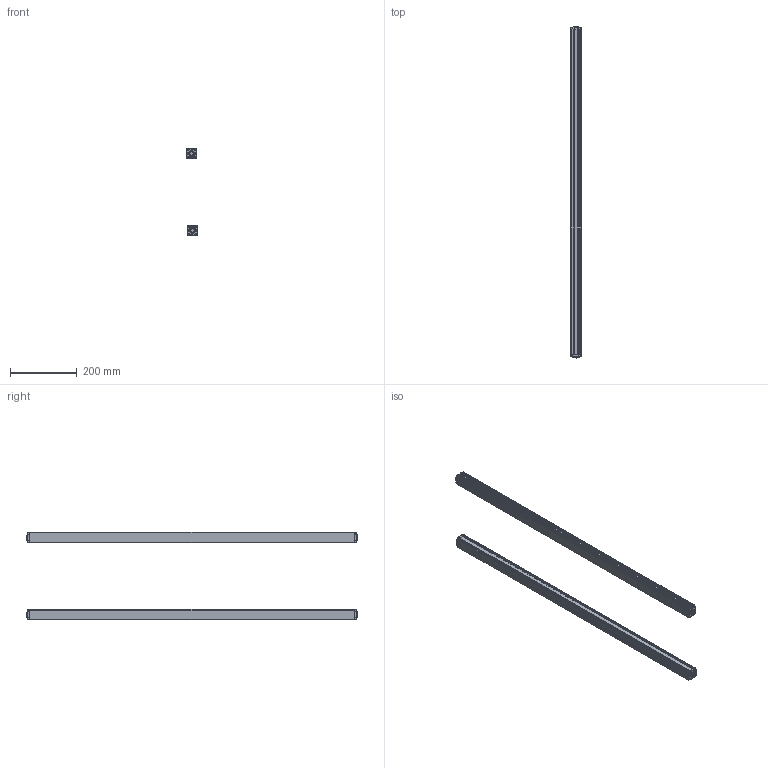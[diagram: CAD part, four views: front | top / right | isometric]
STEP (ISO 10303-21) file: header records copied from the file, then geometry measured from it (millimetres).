
FILE_DESCRIPTION (( 'STEP AP203' ), '1' );
FILE_NAME ('ZDA4820-970.STEP', '2022-12-29T09:44:29', ( 'User' ), ( 'China' ), 'SwSTEP 2.0', 'SolidWorks 2020', '' );
FILE_SCHEMA (( 'CONFIG_CONTROL_DESIGN' ));
Length unit declared in the file: millimetre
Products named in the file (5): 錨璃10; ZDA4820-970; 錨璃8 - 萵掛 (2); 錨璃1; 錨璃8
Assembly tree (8 placements, depth 2):
  ZDA4820-970
    錨璃1  x2
    錨璃8  x2
    錨璃8 - 萵掛 (2)  x2
    錨璃10  x2
Bounding box: 32.36 x 991.4 x 260.35 mm (x, y, z)
Volume: 615842 mm3; surface area: 651326.5 mm2
Topology: 8 solids, 8 shells, 1032 faces, 2690 edges, 1668 vertices
Faces by surface type: plane 464, cylinder 310, cone 120, bspline 58, torus 48, sphere 32
Entity records: 17901 total; most frequent: CARTESIAN_POINT 4731, ORIENTED_EDGE 2666, DIRECTION 2616, EDGE_CURVE 1333, AXIS2_PLACEMENT_3D 894, VERTEX_POINT 834, LINE 828, VECTOR 828
